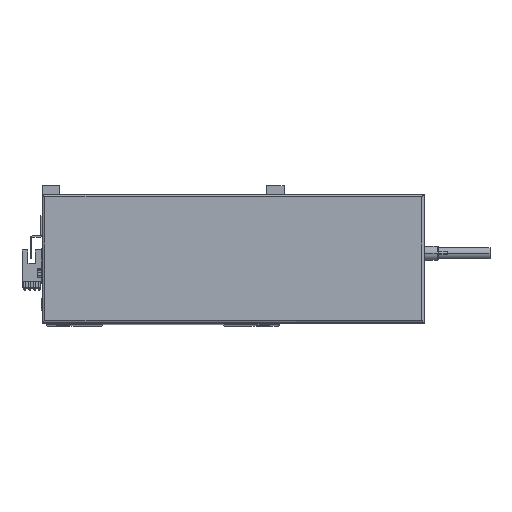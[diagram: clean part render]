
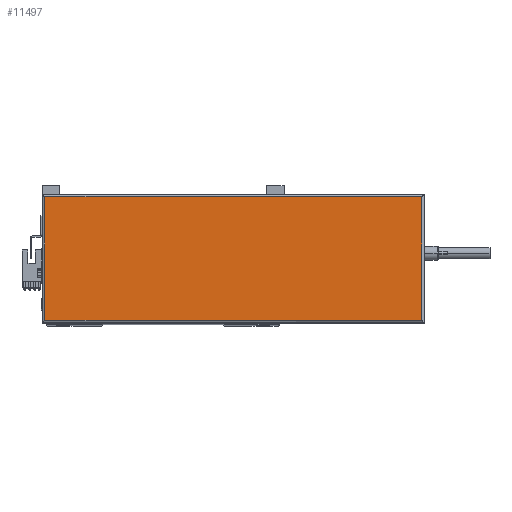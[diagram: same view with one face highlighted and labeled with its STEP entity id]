
A CAD part, top view. The second image highlights one B-rep face of the part: STEP entity #11497.
In plain terms, the highlighted planar face has unit normal (0, 0, 1).
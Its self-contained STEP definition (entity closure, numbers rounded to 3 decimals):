
#882 = CARTESIAN_POINT ( 'NONE',  ( 265., 90., 44.8 ) ) ;
#1327 = VECTOR ( 'NONE', #48406, 1000. ) ;
#1891 = CARTESIAN_POINT ( 'NONE',  ( 267., 2., 44.8 ) ) ;
#2480 = EDGE_CURVE ( 'NONE', #44074, #19077, #27967, .T. ) ;
#3754 = CARTESIAN_POINT ( 'NONE',  ( 265., 88., 44.8 ) ) ;
#6256 = EDGE_CURVE ( 'NONE', #32538, #44074, #14592, .T. ) ;
#7596 = LINE ( 'NONE', #50470, #45175 ) ;
#8360 = AXIS2_PLACEMENT_3D ( 'NONE', #42161, #26539, #14367 ) ;
#10162 = ORIENTED_EDGE ( 'NONE', *, *, #6256, .T. ) ;
#11497 = ADVANCED_FACE ( 'NONE', ( #48029 ), #34242, .T. ) ;
#11862 = LINE ( 'NONE', #882, #1327 ) ;
#14367 = DIRECTION ( 'NONE',  ( 1., 0., 0. ) ) ;
#14592 = LINE ( 'NONE', #20409, #23784 ) ;
#16587 = CARTESIAN_POINT ( 'NONE',  ( 2., 88., 44.8 ) ) ;
#17907 = EDGE_CURVE ( 'NONE', #46453, #32538, #7596, .T. ) ;
#19077 = VERTEX_POINT ( 'NONE', #37087 ) ;
#20409 = CARTESIAN_POINT ( 'NONE',  ( 2., 0., 44.8 ) ) ;
#22090 = CARTESIAN_POINT ( 'NONE',  ( 2., 2., 44.8 ) ) ;
#23784 = VECTOR ( 'NONE', #44450, 1000. ) ;
#26539 = DIRECTION ( 'NONE',  ( 0., 0., 1. ) ) ;
#26911 = DIRECTION ( 'NONE',  ( -1., 0., 0. ) ) ;
#27967 = LINE ( 'NONE', #1891, #50131 ) ;
#32538 = VERTEX_POINT ( 'NONE', #16587 ) ;
#33164 = ORIENTED_EDGE ( 'NONE', *, *, #17907, .T. ) ;
#34242 = PLANE ( 'NONE',  #8360 ) ;
#36944 = ORIENTED_EDGE ( 'NONE', *, *, #44702, .T. ) ;
#37087 = CARTESIAN_POINT ( 'NONE',  ( 265., 2., 44.8 ) ) ;
#42161 = CARTESIAN_POINT ( 'NONE',  ( 133.5, 45., 44.8 ) ) ;
#44074 = VERTEX_POINT ( 'NONE', #22090 ) ;
#44450 = DIRECTION ( 'NONE',  ( 0., -1., 0. ) ) ;
#44702 = EDGE_CURVE ( 'NONE', #19077, #46453, #11862, .T. ) ;
#45114 = DIRECTION ( 'NONE',  ( 1., 0., 0. ) ) ;
#45175 = VECTOR ( 'NONE', #26911, 1000. ) ;
#46059 = EDGE_LOOP ( 'NONE', ( #36944, #33164, #10162, #48065 ) ) ;
#46453 = VERTEX_POINT ( 'NONE', #3754 ) ;
#48029 = FACE_OUTER_BOUND ( 'NONE', #46059, .T. ) ;
#48065 = ORIENTED_EDGE ( 'NONE', *, *, #2480, .T. ) ;
#48406 = DIRECTION ( 'NONE',  ( 0., 1., 0. ) ) ;
#50131 = VECTOR ( 'NONE', #45114, 1000. ) ;
#50470 = CARTESIAN_POINT ( 'NONE',  ( 0., 88., 44.8 ) ) ;
